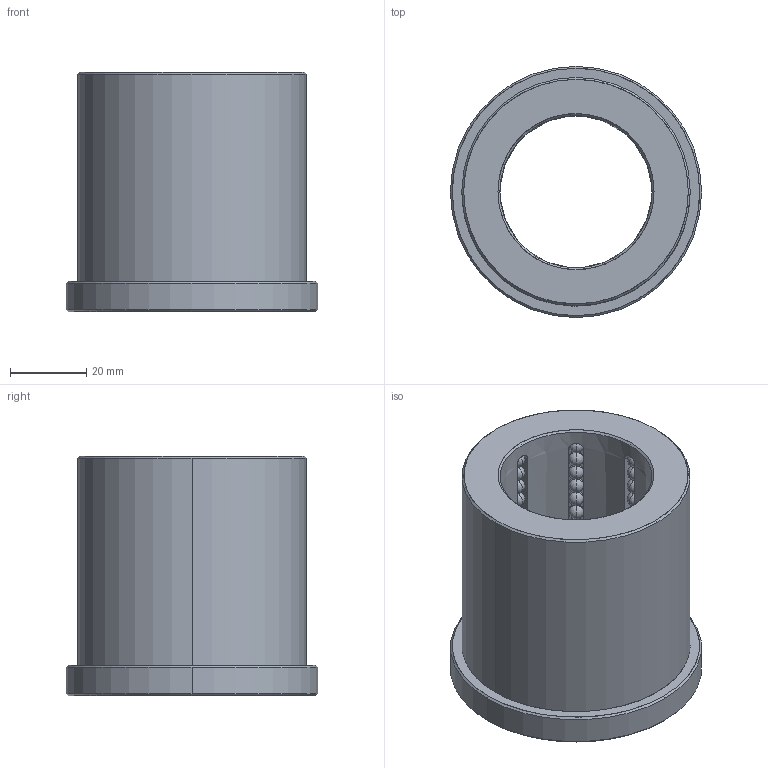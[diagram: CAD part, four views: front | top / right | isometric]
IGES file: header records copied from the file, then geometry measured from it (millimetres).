
Start section: START RECORD GO HERE.
Global section: file name: B8014063.igs; native system: DASSAULT SYSTEMES CATIA V5 R20 - www.3ds.com; preprocessor: CATIA Version 5 Release 20 ; author: Utente; organization: NB04-ASUS; date: 20200419.142700; units: millimetre
Bounding box: 66 x 66 x 63 mm (x, y, z)
Surface area: 32877.4 mm2 (no closed solid volume)
Topology: 0 solids, 0 shells, 485 faces, 2004 edges, 1172 vertices
Faces by surface type: revolution 458, plane 27
